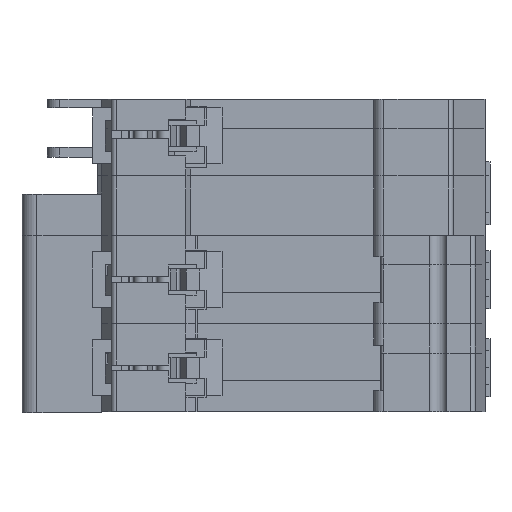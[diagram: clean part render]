
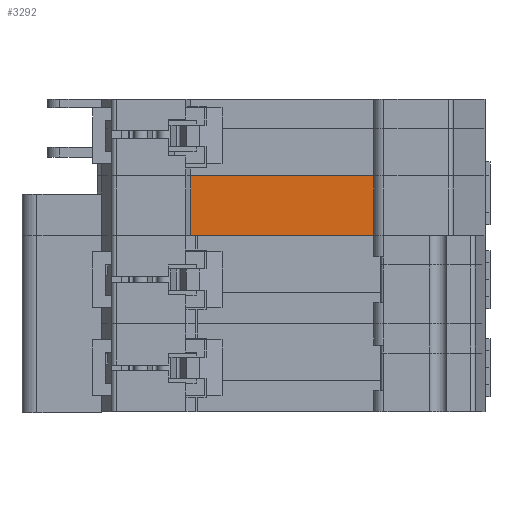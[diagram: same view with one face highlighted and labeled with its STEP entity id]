
A CAD part, front view. The second image highlights one B-rep face of the part: STEP entity #3292.
In plain terms, the highlighted planar face has unit normal (0, -1, 0).
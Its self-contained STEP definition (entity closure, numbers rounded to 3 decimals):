
#2230 = VERTEX_POINT ( 'NONE', #8296 ) ;
#2864 = VECTOR ( 'NONE', #9134, 1000. ) ;
#3292 = ADVANCED_FACE ( 'NONE', ( #12957 ), #25805, .T. ) ;
#4629 = DIRECTION ( 'NONE',  ( 0., -1., 0. ) ) ;
#4763 = DIRECTION ( 'NONE',  ( 0., 0., -1. ) ) ;
#6902 = CARTESIAN_POINT ( 'NONE',  ( -12., -55.95, -12. ) ) ;
#7560 = VECTOR ( 'NONE', #35251, 1000. ) ;
#7690 = ORIENTED_EDGE ( 'NONE', *, *, #23313, .T. ) ;
#8296 = CARTESIAN_POINT ( 'NONE',  ( -12., -55.95, -12. ) ) ;
#9134 = DIRECTION ( 'NONE',  ( 0., 0., 1. ) ) ;
#9244 = CARTESIAN_POINT ( 'NONE',  ( 25.2, -55.95, -12. ) ) ;
#10775 = CARTESIAN_POINT ( 'NONE',  ( -12., -55.95, -12. ) ) ;
#10928 = CARTESIAN_POINT ( 'NONE',  ( -12., -55.95, 0. ) ) ;
#12957 = FACE_OUTER_BOUND ( 'NONE', #19534, .T. ) ;
#13369 = CARTESIAN_POINT ( 'NONE',  ( 25.2, -55.95, -12. ) ) ;
#15288 = VERTEX_POINT ( 'NONE', #9244 ) ;
#16270 = CARTESIAN_POINT ( 'NONE',  ( -12., -55.95, 0. ) ) ;
#16490 = AXIS2_PLACEMENT_3D ( 'NONE', #6902, #4629, #4763 ) ;
#16785 = DIRECTION ( 'NONE',  ( 1., 0., 0. ) ) ;
#19534 = EDGE_LOOP ( 'NONE', ( #25066, #31829, #35238, #7690 ) ) ;
#20188 = VERTEX_POINT ( 'NONE', #16270 ) ;
#22071 = EDGE_CURVE ( 'NONE', #20188, #28931, #33357, .T. ) ;
#23313 = EDGE_CURVE ( 'NONE', #15288, #28931, #30892, .T. ) ;
#24444 = LINE ( 'NONE', #10775, #38267 ) ;
#24586 = CARTESIAN_POINT ( 'NONE',  ( -12., -55.95, -12. ) ) ;
#25066 = ORIENTED_EDGE ( 'NONE', *, *, #22071, .F. ) ;
#25805 = PLANE ( 'NONE',  #16490 ) ;
#26393 = LINE ( 'NONE', #24586, #2864 ) ;
#27111 = VECTOR ( 'NONE', #38196, 1000. ) ;
#28223 = CARTESIAN_POINT ( 'NONE',  ( 25.2, -55.95, 0. ) ) ;
#28931 = VERTEX_POINT ( 'NONE', #28223 ) ;
#30892 = LINE ( 'NONE', #13369, #27111 ) ;
#30980 = EDGE_CURVE ( 'NONE', #2230, #20188, #26393, .T. ) ;
#31180 = EDGE_CURVE ( 'NONE', #2230, #15288, #24444, .T. ) ;
#31829 = ORIENTED_EDGE ( 'NONE', *, *, #30980, .F. ) ;
#33357 = LINE ( 'NONE', #10928, #7560 ) ;
#35238 = ORIENTED_EDGE ( 'NONE', *, *, #31180, .T. ) ;
#35251 = DIRECTION ( 'NONE',  ( 1., 0., 0. ) ) ;
#38196 = DIRECTION ( 'NONE',  ( 0., 0., 1. ) ) ;
#38267 = VECTOR ( 'NONE', #16785, 1000. ) ;
